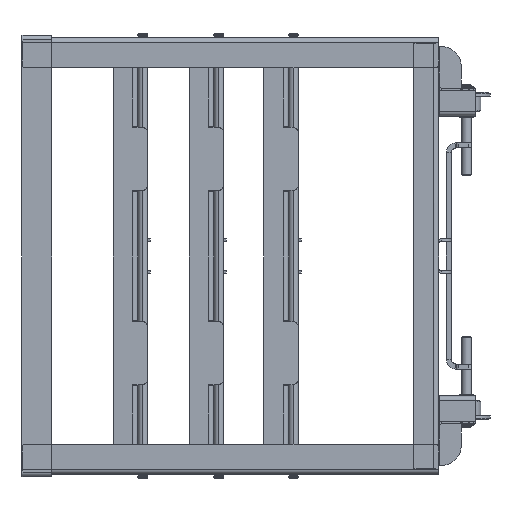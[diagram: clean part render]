
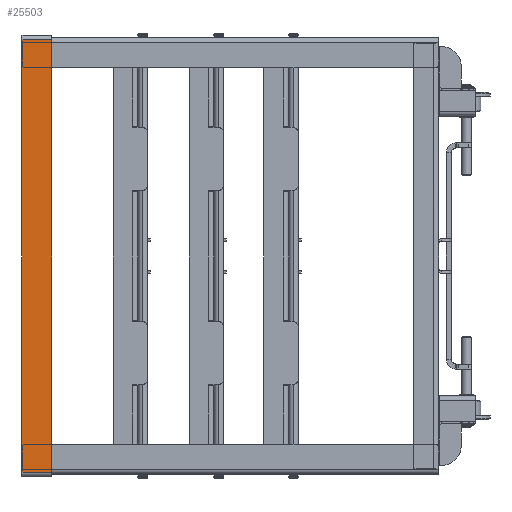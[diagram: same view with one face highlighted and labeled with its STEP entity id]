
A CAD part, left-side view. The second image highlights one B-rep face of the part: STEP entity #25503.
In plain terms, the highlighted planar face has unit normal (-1, 0, 0).
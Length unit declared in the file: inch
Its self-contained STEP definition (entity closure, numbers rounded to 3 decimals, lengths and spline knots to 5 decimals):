
#436 = CARTESIAN_POINT ( 'NONE',  ( -0.12, 0., 0. ) ) ;
#573 = FACE_OUTER_BOUND ( 'NONE', #23114, .T. ) ;
#916 = CARTESIAN_POINT ( 'NONE',  ( -0.12, 0., 11.01 ) ) ;
#1160 = AXIS2_PLACEMENT_3D ( 'NONE', #436, #25790, #26301 ) ;
#1651 = ORIENTED_EDGE ( 'NONE', *, *, #4573, .F. ) ;
#1772 = DIRECTION ( 'NONE',  ( 0., 1., 0. ) ) ;
#2239 = EDGE_CURVE ( 'NONE', #26076, #4060, #15067, .T. ) ;
#2938 = VERTEX_POINT ( 'NONE', #6165 ) ;
#3906 = DIRECTION ( 'NONE',  ( 0., 0., 1. ) ) ;
#4060 = VERTEX_POINT ( 'NONE', #23982 ) ;
#4573 = EDGE_CURVE ( 'NONE', #6372, #4060, #11597, .T. ) ;
#5211 = VECTOR ( 'NONE', #3906, 39.37008 ) ;
#5770 = CARTESIAN_POINT ( 'NONE',  ( -0.12, 0., 10.885 ) ) ;
#5893 = LINE ( 'NONE', #27505, #5211 ) ;
#6165 = CARTESIAN_POINT ( 'NONE',  ( -0.12, 1.5, 10.885 ) ) ;
#6372 = VERTEX_POINT ( 'NONE', #17462 ) ;
#6552 = CARTESIAN_POINT ( 'NONE',  ( -0.12, 1.5, -10.885 ) ) ;
#10043 = ORIENTED_EDGE ( 'NONE', *, *, #2239, .T. ) ;
#11149 = VECTOR ( 'NONE', #1772, 39.37008 ) ;
#11597 = LINE ( 'NONE', #916, #27938 ) ;
#14001 = DIRECTION ( 'NONE',  ( 0., 0., -1. ) ) ;
#15067 = LINE ( 'NONE', #6552, #17314 ) ;
#15644 = PLANE ( 'NONE',  #1160 ) ;
#16645 = ORIENTED_EDGE ( 'NONE', *, *, #26475, .F. ) ;
#17314 = VECTOR ( 'NONE', #23733, 39.37008 ) ;
#17462 = CARTESIAN_POINT ( 'NONE',  ( -0.12, 0., 10.885 ) ) ;
#21412 = CARTESIAN_POINT ( 'NONE',  ( -0.12, 1.5, -10.885 ) ) ;
#23114 = EDGE_LOOP ( 'NONE', ( #10043, #1651, #23249, #16645 ) ) ;
#23228 = LINE ( 'NONE', #5770, #11149 ) ;
#23249 = ORIENTED_EDGE ( 'NONE', *, *, #25381, .T. ) ;
#23733 = DIRECTION ( 'NONE',  ( 0., -1., 0. ) ) ;
#23982 = CARTESIAN_POINT ( 'NONE',  ( -0.12, 0., -10.885 ) ) ;
#25381 = EDGE_CURVE ( 'NONE', #6372, #2938, #23228, .T. ) ;
#25503 = ADVANCED_FACE ( 'NONE', ( #573 ), #15644, .F. ) ;
#25790 = DIRECTION ( 'NONE',  ( 1., 0., 0. ) ) ;
#26076 = VERTEX_POINT ( 'NONE', #21412 ) ;
#26301 = DIRECTION ( 'NONE',  ( 0., 0., -1. ) ) ;
#26475 = EDGE_CURVE ( 'NONE', #26076, #2938, #5893, .T. ) ;
#27505 = CARTESIAN_POINT ( 'NONE',  ( -0.12, 1.5, 11.01 ) ) ;
#27938 = VECTOR ( 'NONE', #14001, 39.37008 ) ;
